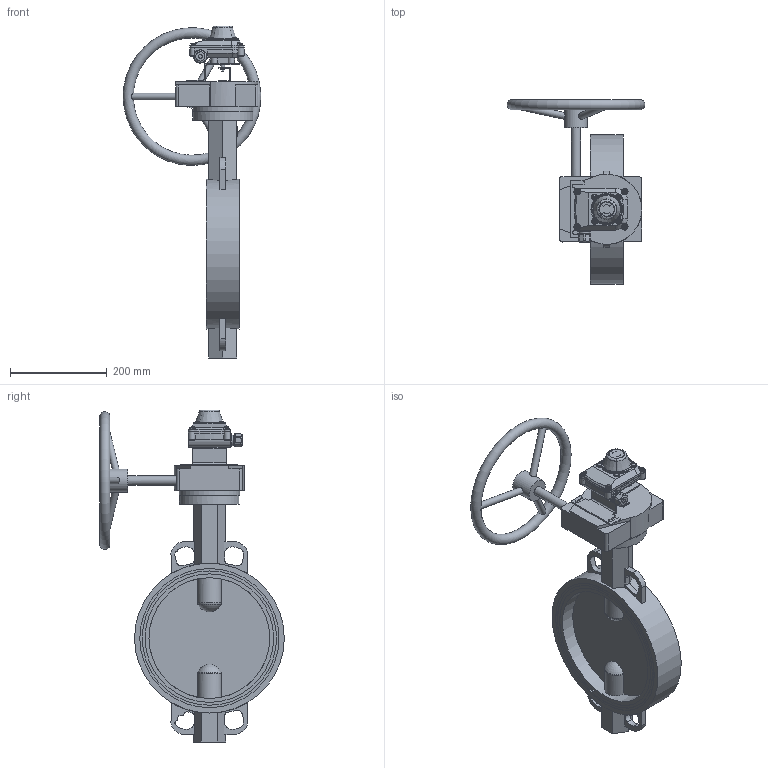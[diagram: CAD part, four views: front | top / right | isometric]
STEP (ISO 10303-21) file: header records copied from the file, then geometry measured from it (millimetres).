
FILE_DESCRIPTION(('STEP AP203'), '1');
FILE_NAME('3D_200-250-16-Ï.02', '', ('UNSPECIFIED'), ('UNSPECIFIED'), 'C3D Converter', 'C3D Toolkit', '');
FILE_SCHEMA(('CONFIG_CONTROL_DESIGN'));
Length unit declared in the file: millimetre
Bounding box: 284.87 x 382 x 687 mm (x, y, z)
Volume: 5257478 mm3; surface area: 620142.4 mm2
Topology: 4 solids, 8 shells, 1508 faces, 4335 edges, 2904 vertices
Faces by surface type: plane 1200, cylinder 181, torus 54, cone 45, bspline 28
Full cylindrical faces by diameter (mm): 4.917 x4, 6 x8, 8 x3, 10 x8, 12 x4, 13.5 x2, 14 x3, 16 x1, 17.294 x1, 18 x1, 19.049 x1, 22 x1, 27 x2, 30 x2, 32 x1, 47.622 x1, 61.5 x1, 125 x1, 250 x2, 266 x2, 278 x2, 288 x2, 310 x1
Entity records: 77375 total; most frequent: CARTESIAN_POINT 26007, ORIENTED_EDGE 8502, DIRECTION 7553, EDGE_CURVE 4251, LINE 3253, VECTOR 3253, VERTEX_POINT 2900, AXIS2_PLACEMENT_3D 2150
